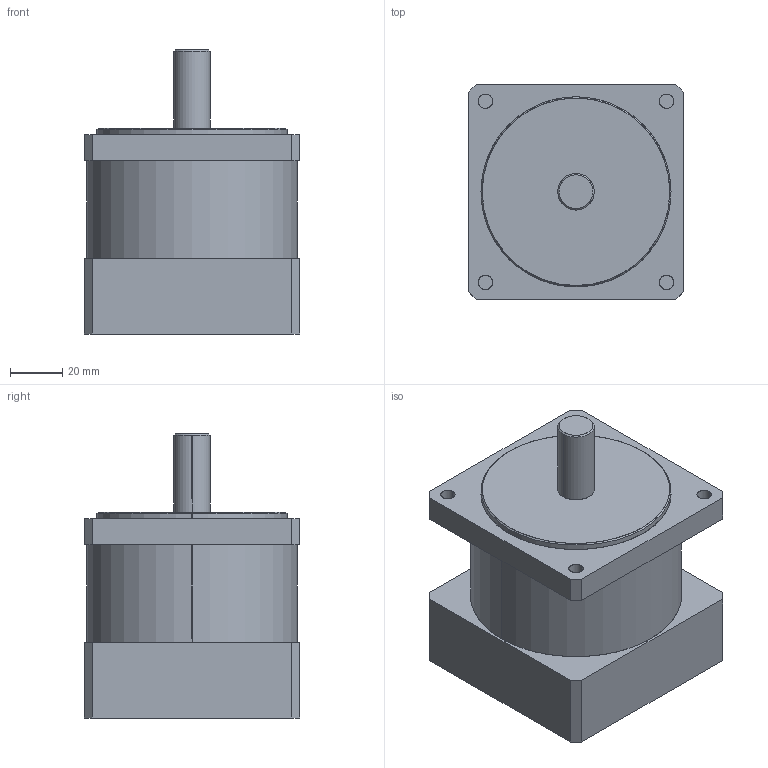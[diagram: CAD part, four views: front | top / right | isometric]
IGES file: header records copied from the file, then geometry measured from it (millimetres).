
Start section: SolidWorks IGES file using analytic representation for surfaces
Global section: file name: Z:\CAD Files\OtherCAD\ControlResources-CM123L-Brake\MPC034-24-XXX.IGS; native system: SolidWorks 2015; preprocessor: SolidWorks 2015; author: RENDER; date: 150521.171700; units: millimetre
Bounding box: 82.6 x 82.6 x 109.1 mm (x, y, z)
Surface area: 49155.2 mm2 (no closed solid volume)
Topology: 0 solids, 0 shells, 68 faces, 1416 edges, 1408 vertices
Faces by surface type: revolution 42, bspline 26
